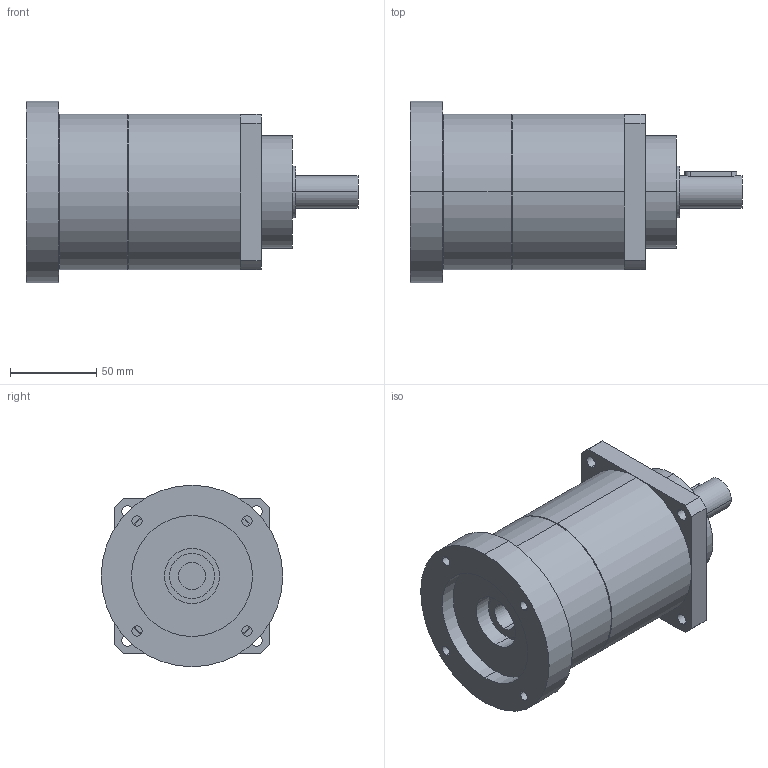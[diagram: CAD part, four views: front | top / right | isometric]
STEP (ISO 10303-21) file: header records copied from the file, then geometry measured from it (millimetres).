
FILE_DESCRIPTION(('CoCreate Modeling STEP Export'),'2;1');
FILE_NAME('GPT90_ig-9-12-16-20-25-28-35-40-50-70-100_19_B5T_15.87_P14.stp','2015-02-04T11:31:12',(''),(''),'CoCreate Modeling STEP processor for AP214 (Solid Model)','CoCreate Modeling 16.00C 25-Feb-2009 (C) Parametric Technology GmbH','');
FILE_SCHEMA(('AUTOMOTIVE_DESIGN { 1 0 10303 214 1 1 1 1 }'));
Length unit declared in the file: millimetre
Products named in the file (2): GPT90_ig-9-12-16-20-25-28-35-40-50-70-100_19_B5T_15.87_P14
Assembly tree (1 placements, depth 2):
  GPT90_ig-9-12-16-20-25-28-35-40-50-70-100_19_B5T_15.87_P14
    GPT90_ig-9-12-16-20-25-28-35-40-50-70-100_19_B5T_15.87_P14
Bounding box: 192 x 105 x 105 mm (x, y, z)
Volume: 948218.7 mm3; surface area: 74746.1 mm2
Topology: 1 solids, 1 shells, 75 faces, 205 edges, 138 vertices
Faces by surface type: cylinder 44, plane 27, cone 4
Entity records: 2477 total; most frequent: CARTESIAN_POINT 717, ORIENTED_EDGE 410, DIRECTION 294, EDGE_CURVE 205, VERTEX_POINT 138, AXIS2_PLACEMENT_3D 112, EDGE_LOOP 97, FACE_OUTER_BOUND 75
